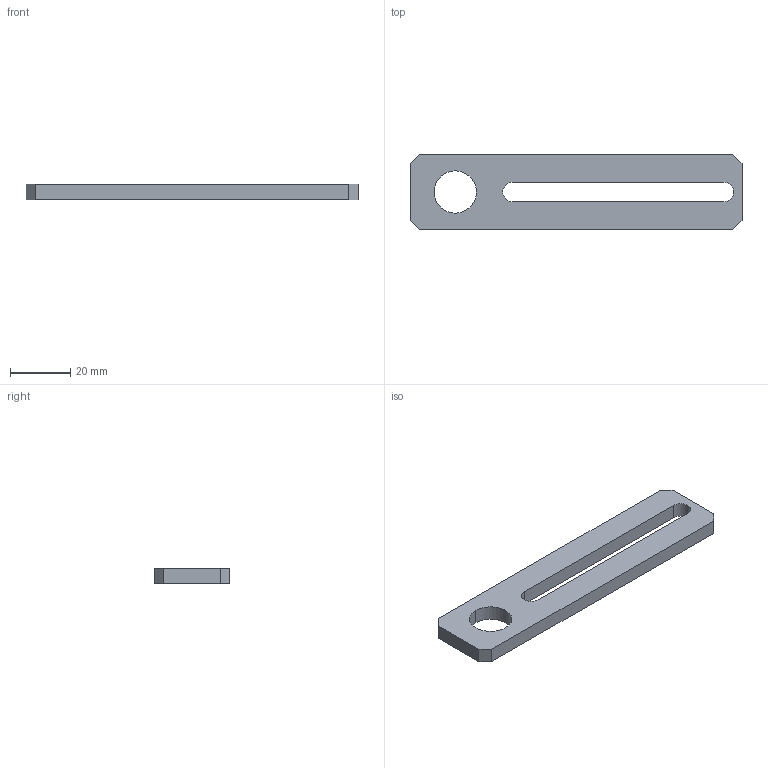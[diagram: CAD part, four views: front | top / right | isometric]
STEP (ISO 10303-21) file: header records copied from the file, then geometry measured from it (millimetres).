
FILE_DESCRIPTION (( 'STEP AP214' ), '1' );
FILE_NAME ('SCF3-70M17.STEP', '2019-11-11T00:58:12', ( '微软用户' ), ( '微软中国' ), 'SwSTEP 2.0', 'SolidWorks 2016', '' );
FILE_SCHEMA (( 'AUTOMOTIVE_DESIGN' ));
Length unit declared in the file: millimetre
Products named in the file (1): SCF3-70M17
Bounding box: 110 x 25 x 5 mm (x, y, z)
Volume: 10449.4 mm3; surface area: 6516.6 mm2
Topology: 1 solids, 1 shells, 16 faces, 42 edges, 28 vertices
Faces by surface type: plane 12, cylinder 4
Entity records: 536 total; most frequent: CARTESIAN_POINT 87, ORIENTED_EDGE 84, DIRECTION 84, EDGE_CURVE 42, LINE 34, VECTOR 34, VERTEX_POINT 28, AXIS2_PLACEMENT_3D 25
